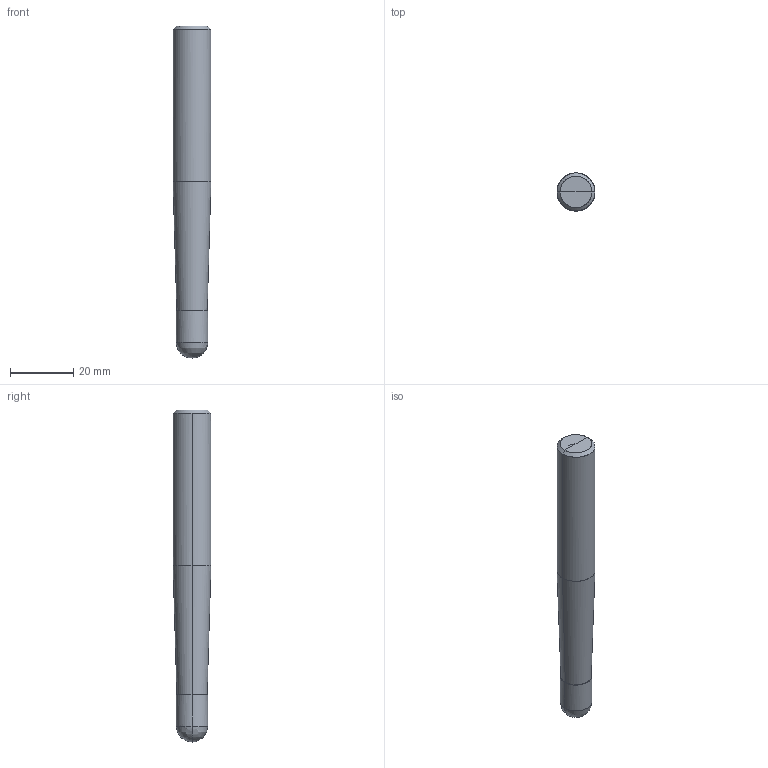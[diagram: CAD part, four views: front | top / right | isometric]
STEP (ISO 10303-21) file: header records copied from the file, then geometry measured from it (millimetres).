
FILE_DESCRIPTION(/* description */ (''),/* implementation_level */ '2;1');
FILE_NAME(/*name*/ '4052-10F',/*time_stamp*/'2021-5-26T10:40:22',/*author*/ ('ISBE GmbH'),/*organization*/ ('ISBE GmbH'),/*preprocessor_version*/ 'STEP IO v1.0',/*originating_system*/ '',/*authorisation*/ '');
FILE_SCHEMA (('AUTOMOTIVE_DESIGN'));
Length unit declared in the file: millimetre
Products named in the file (1): Document
Bounding box: 12 x 11.98 x 105 mm (x, y, z)
Surface area: 3956.7 mm2 (no closed solid volume)
Topology: 0 solids, 18 shells, 18 faces, 76 edges, 72 vertices
Faces by surface type: bspline 18
Entity records: 1023 total; most frequent: CARTESIAN_POINT 690, VERTEX_POINT 64, EDGE_CURVE 64, ORIENTED_EDGE 64, EDGE_LOOP 18, FACE_OUTER_BOUND 18, ADVANCED_FACE 18, DIRECTION 16
